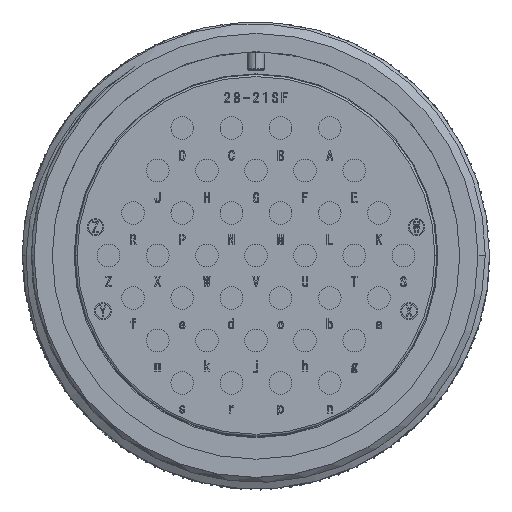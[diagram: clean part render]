
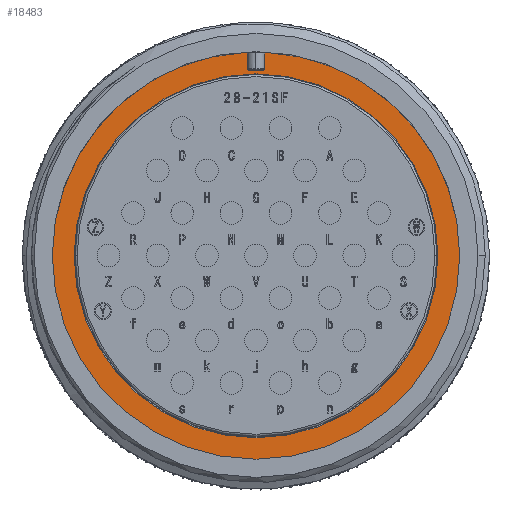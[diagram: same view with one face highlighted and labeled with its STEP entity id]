
A CAD part, top view. The second image highlights one B-rep face of the part: STEP entity #18483.
In plain terms, the highlighted planar face has unit normal (0, 0, 1).
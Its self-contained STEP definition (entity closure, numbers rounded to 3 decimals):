
#1149 = EDGE_CURVE ( 'NONE', #41208, #81966, #89963, .T. ) ;
#1749 = AXIS2_PLACEMENT_3D ( 'NONE', #98120, #19824, #111349 ) ;
#5415 = FACE_OUTER_BOUND ( 'NONE', #15076, .T. ) ;
#6816 = CARTESIAN_POINT ( 'NONE',  ( -17.3, 0., -19.18 ) ) ;
#9603 = CARTESIAN_POINT ( 'NONE',  ( -0.825, 19.357, -19.18 ) ) ;
#11005 = ORIENTED_EDGE ( 'NONE', *, *, #161767, .F. ) ;
#11354 = EDGE_CURVE ( 'NONE', #114222, #44118, #31860, .T. ) ;
#11884 = EDGE_CURVE ( 'NONE', #118615, #103609, #86419, .T. ) ;
#12107 = EDGE_CURVE ( 'NONE', #41208, #26727, #166052, .T. ) ;
#12282 = VECTOR ( 'NONE', #56272, 1000. ) ;
#15076 = EDGE_LOOP ( 'NONE', ( #90988, #81280, #120251, #104827, #135092, #63204, #35945, #150143, #11005, #69516 ) ) ;
#16650 = DIRECTION ( 'NONE',  ( 0., 0., 1. ) ) ;
#18298 = CARTESIAN_POINT ( 'NONE',  ( 0., 0., -19.18 ) ) ;
#18483 = ADVANCED_FACE ( 'NONE', ( #70865, #5415 ), #152722, .T. ) ;
#19052 = CIRCLE ( 'NONE', #156038, 0.1 ) ;
#19824 = DIRECTION ( 'NONE',  ( 0., 0., 1. ) ) ;
#23754 = DIRECTION ( 'NONE',  ( 0., 0., 1. ) ) ;
#25516 = CARTESIAN_POINT ( 'NONE',  ( -0.925, 19.253, -19.18 ) ) ;
#26727 = VERTEX_POINT ( 'NONE', #166359 ) ;
#27345 = CARTESIAN_POINT ( 'NONE',  ( 19.375, 0., -19.18 ) ) ;
#28027 = CIRCLE ( 'NONE', #113948, 17.3 ) ;
#28194 = CARTESIAN_POINT ( 'NONE',  ( -0.825, 19.253, -19.18 ) ) ;
#28278 = CARTESIAN_POINT ( 'NONE',  ( 0.825, 17.75, -19.18 ) ) ;
#29195 = EDGE_LOOP ( 'NONE', ( #32464, #157905 ) ) ;
#31493 = DIRECTION ( 'NONE',  ( 1., 0., 0. ) ) ;
#31601 = EDGE_CURVE ( 'NONE', #118615, #81966, #147208, .T. ) ;
#31860 = CIRCLE ( 'NONE', #90208, 19.375 ) ;
#32464 = ORIENTED_EDGE ( 'NONE', *, *, #71435, .F. ) ;
#33089 = AXIS2_PLACEMENT_3D ( 'NONE', #102052, #23754, #115264 ) ;
#35945 = ORIENTED_EDGE ( 'NONE', *, *, #31601, .F. ) ;
#36212 = CARTESIAN_POINT ( 'NONE',  ( 17.3, 0., -19.18 ) ) ;
#36761 = CARTESIAN_POINT ( 'NONE',  ( 0., 17.3, -19.18 ) ) ;
#38658 = DIRECTION ( 'NONE',  ( 1., 0., 0. ) ) ;
#41208 = VERTEX_POINT ( 'NONE', #28278 ) ;
#41318 = DIRECTION ( 'NONE',  ( 0., 0., -1. ) ) ;
#42089 = CARTESIAN_POINT ( 'NONE',  ( 0., 0., -19.18 ) ) ;
#43157 = EDGE_CURVE ( 'NONE', #125661, #90651, #91253, .T. ) ;
#43194 = CARTESIAN_POINT ( 'NONE',  ( -0.825, 17.65, -19.18 ) ) ;
#43229 = CARTESIAN_POINT ( 'NONE',  ( -0.825, 17.75, -19.18 ) ) ;
#44118 = VERTEX_POINT ( 'NONE', #56982 ) ;
#47119 = EDGE_CURVE ( 'NONE', #112673, #163058, #164186, .T. ) ;
#47998 = CARTESIAN_POINT ( 'NONE',  ( 0., 0., -19.18 ) ) ;
#50021 = DIRECTION ( 'NONE',  ( 0., 0., -1. ) ) ;
#51699 = EDGE_CURVE ( 'NONE', #44118, #26727, #124379, .T. ) ;
#55201 = DIRECTION ( 'NONE',  ( 1., 0., 0. ) ) ;
#56272 = DIRECTION ( 'NONE',  ( 1., 0., 0. ) ) ;
#56982 = CARTESIAN_POINT ( 'NONE',  ( 0.93, 19.353, -19.18 ) ) ;
#61138 = DIRECTION ( 'NONE',  ( 1., 0., 0. ) ) ;
#63044 = DIRECTION ( 'NONE',  ( 0., 0., 1. ) ) ;
#63204 = ORIENTED_EDGE ( 'NONE', *, *, #1149, .T. ) ;
#69516 = ORIENTED_EDGE ( 'NONE', *, *, #127469, .T. ) ;
#70865 = FACE_BOUND ( 'NONE', #29195, .T. ) ;
#71435 = EDGE_CURVE ( 'NONE', #163058, #112673, #28027, .T. ) ;
#79716 = CIRCLE ( 'NONE', #33089, 19.375 ) ;
#81280 = ORIENTED_EDGE ( 'NONE', *, *, #143750, .T. ) ;
#81966 = VERTEX_POINT ( 'NONE', #95677 ) ;
#86419 = CIRCLE ( 'NONE', #130773, 0.1 ) ;
#87951 = DIRECTION ( 'NONE',  ( 0., -1., 0. ) ) ;
#89963 = CIRCLE ( 'NONE', #166556, 0.1 ) ;
#90208 = AXIS2_PLACEMENT_3D ( 'NONE', #47998, #139434, #61138 ) ;
#90651 = VERTEX_POINT ( 'NONE', #95037 ) ;
#90988 = ORIENTED_EDGE ( 'NONE', *, *, #43157, .T. ) ;
#91253 = CIRCLE ( 'NONE', #148419, 19.375 ) ;
#92931 = AXIS2_PLACEMENT_3D ( 'NONE', #36761, #63044, #154413 ) ;
#94953 = CARTESIAN_POINT ( 'NONE',  ( 0., 0., -19.18 ) ) ;
#95037 = CARTESIAN_POINT ( 'NONE',  ( -19.375, 0., -19.18 ) ) ;
#95645 = DIRECTION ( 'NONE',  ( 0., 1., 0. ) ) ;
#95677 = CARTESIAN_POINT ( 'NONE',  ( 0.725, 17.65, -19.18 ) ) ;
#96539 = VECTOR ( 'NONE', #95645, 1000. ) ;
#98120 = CARTESIAN_POINT ( 'NONE',  ( 0.925, 19.253, -19.18 ) ) ;
#102052 = CARTESIAN_POINT ( 'NONE',  ( 0., 0., -19.18 ) ) ;
#103609 = VERTEX_POINT ( 'NONE', #43229 ) ;
#104827 = ORIENTED_EDGE ( 'NONE', *, *, #51699, .T. ) ;
#108153 = DIRECTION ( 'NONE',  ( 1., 0., 0. ) ) ;
#108303 = CARTESIAN_POINT ( 'NONE',  ( 0.825, 17.65, -19.18 ) ) ;
#109803 = DIRECTION ( 'NONE',  ( 0., 0., 1. ) ) ;
#111349 = DIRECTION ( 'NONE',  ( 1., 0., 0. ) ) ;
#112673 = VERTEX_POINT ( 'NONE', #6816 ) ;
#113219 = CARTESIAN_POINT ( 'NONE',  ( -0.93, 19.353, -19.18 ) ) ;
#113948 = AXIS2_PLACEMENT_3D ( 'NONE', #18298, #109803, #31493 ) ;
#114222 = VERTEX_POINT ( 'NONE', #27345 ) ;
#115264 = DIRECTION ( 'NONE',  ( 1., 0., 0. ) ) ;
#116982 = DIRECTION ( 'NONE',  ( 0., 0., 1. ) ) ;
#118615 = VERTEX_POINT ( 'NONE', #166294 ) ;
#119648 = CARTESIAN_POINT ( 'NONE',  ( 0.725, 17.75, -19.18 ) ) ;
#120251 = ORIENTED_EDGE ( 'NONE', *, *, #11354, .T. ) ;
#124379 = CIRCLE ( 'NONE', #1749, 0.1 ) ;
#125661 = VERTEX_POINT ( 'NONE', #113219 ) ;
#127469 = EDGE_CURVE ( 'NONE', #137979, #125661, #19052, .T. ) ;
#128354 = CARTESIAN_POINT ( 'NONE',  ( -0.725, 17.75, -19.18 ) ) ;
#130773 = AXIS2_PLACEMENT_3D ( 'NONE', #128354, #50021, #141465 ) ;
#132760 = DIRECTION ( 'NONE',  ( 1., 0., 0. ) ) ;
#133533 = DIRECTION ( 'NONE',  ( 0., 0., 1. ) ) ;
#134860 = AXIS2_PLACEMENT_3D ( 'NONE', #42089, #133533, #55201 ) ;
#135092 = ORIENTED_EDGE ( 'NONE', *, *, #12107, .F. ) ;
#137979 = VERTEX_POINT ( 'NONE', #28194 ) ;
#139434 = DIRECTION ( 'NONE',  ( 0., 0., 1. ) ) ;
#141465 = DIRECTION ( 'NONE',  ( 1., 0., 0. ) ) ;
#143750 = EDGE_CURVE ( 'NONE', #90651, #114222, #79716, .T. ) ;
#147208 = LINE ( 'NONE', #43194, #12282 ) ;
#148419 = AXIS2_PLACEMENT_3D ( 'NONE', #94953, #16650, #108153 ) ;
#149677 = LINE ( 'NONE', #9603, #153803 ) ;
#150143 = ORIENTED_EDGE ( 'NONE', *, *, #11884, .T. ) ;
#152722 = PLANE ( 'NONE',  #92931 ) ;
#153803 = VECTOR ( 'NONE', #87951, 1000. ) ;
#154413 = DIRECTION ( 'NONE',  ( 1., 0., 0. ) ) ;
#156038 = AXIS2_PLACEMENT_3D ( 'NONE', #25516, #116982, #38658 ) ;
#157905 = ORIENTED_EDGE ( 'NONE', *, *, #47119, .F. ) ;
#161767 = EDGE_CURVE ( 'NONE', #137979, #103609, #149677, .T. ) ;
#163058 = VERTEX_POINT ( 'NONE', #36212 ) ;
#164186 = CIRCLE ( 'NONE', #134860, 17.3 ) ;
#166052 = LINE ( 'NONE', #108303, #96539 ) ;
#166294 = CARTESIAN_POINT ( 'NONE',  ( -0.725, 17.65, -19.18 ) ) ;
#166359 = CARTESIAN_POINT ( 'NONE',  ( 0.825, 19.253, -19.18 ) ) ;
#166556 = AXIS2_PLACEMENT_3D ( 'NONE', #119648, #41318, #132760 ) ;
